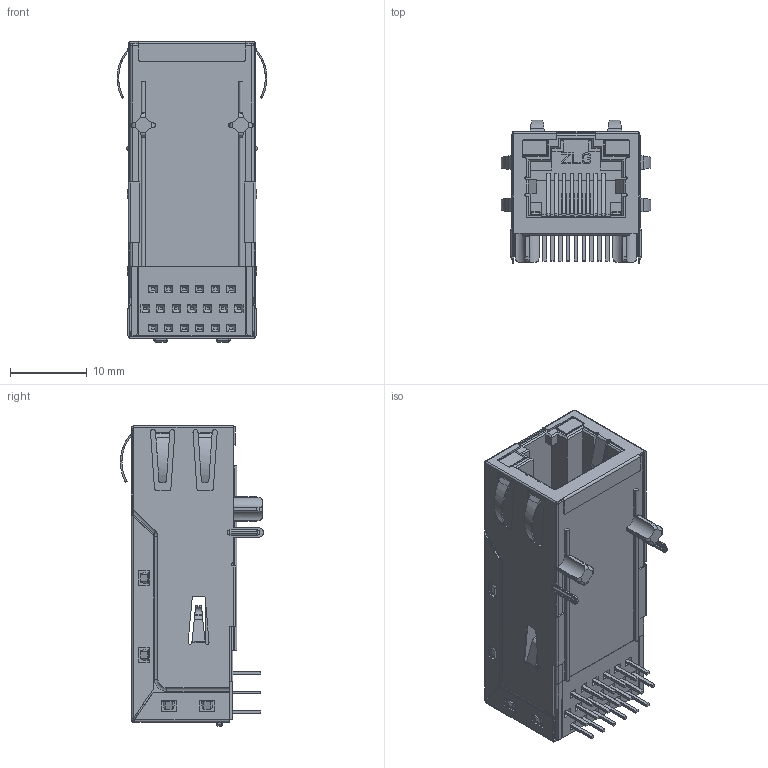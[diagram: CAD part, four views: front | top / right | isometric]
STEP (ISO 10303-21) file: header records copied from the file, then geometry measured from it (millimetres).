
FILE_DESCRIPTION((''),'2;1');
FILE_NAME('EPORT_SW0001','2023-09-13T18:23:36',('liushaohao'),(''),'CREO PARAMETRIC BY PTC INC, 2021404','CREO PARAMETRIC BY PTC INC, 2021404','');
FILE_SCHEMA(('AUTOMOTIVE_DESIGN { 1 0 10303 214 1 1 1 1 }'));
Products named in the file (1): EPORT_SW0001
Bounding box: 19.46 x 18.61 x 39 mm (x, y, z)
Volume: 3010 mm3; surface area: 10107.7 mm2
Topology: 1 solids, 1 shells, 1980 faces, 5550 edges, 3521 vertices
Faces by surface type: plane 1526, cylinder 340, bspline 82, cone 16, sphere 12, torus 4
Entity records: 82089 total; most frequent: CARTESIAN_POINT 17476, ORIENTED_EDGE 11060, DIRECTION 9566, EDGE_CURVE 5530, VECTOR 4666, LINE 4666, VERTEX_POINT 3521, AXIS2_PLACEMENT_3D 2450
